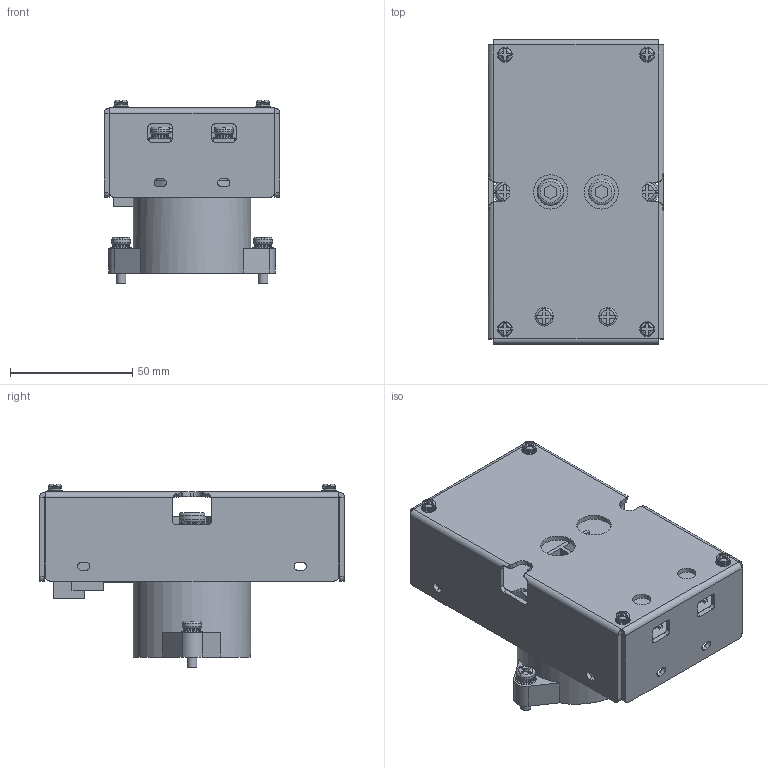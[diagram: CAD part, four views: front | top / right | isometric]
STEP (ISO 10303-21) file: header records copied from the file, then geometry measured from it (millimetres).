
FILE_DESCRIPTION(/* description */ (''),/* implementation_level */ '2;1');
FILE_NAME(/* name */ 'G:\019_LVD ICL\[ 신버전_2024_03 ]\[ 3D 파일 (STEP,IGES) ]\BLVD.stp',/* time_stamp */ '2025-02-20T11:57:06+09:00',/* author */ ('jjang'),/* organization */ (''),/* preprocessor_version */ 'ST-DEVELOPER v18.1',/* originating_system */ 'Autodesk Inventor 2021',/* authorisation */ '');
FILE_SCHEMA (('CONFIG_CONTROL_DESIGN'));
Length unit declared in the file: inch
Products named in the file (1): ICL RELAY ASS'Y_Shrinkwrap_2
Bounding box: 71.7 x 124.4 x 75.01 mm (x, y, z)
Volume: 171646.1 mm3; surface area: 86921.7 mm2
Topology: 7 solids, 7 shells, 933 faces, 2498 edges, 1683 vertices
Faces by surface type: plane 544, cylinder 265, cone 56, torus 52, bspline 8, sphere 8
Full cylindrical faces by diameter (mm): 2.8 x4, 2.957 x8, 3 x4, 3.3 x4, 3.848 x1, 3.86 x1, 4 x12, 4.2 x2, 4.3 x2, 4.5 x2, 5.429 x4, 5.5 x2, 5.636 x4, 5.744 x2, 6.2 x2, 6.3 x3, 7 x1, 7.084 x4, 7.5 x2, 7.8 x4, 8 x1, 8.5 x1, 10.286 x1, 10.5 x2, 12 x3, 14 x2, 48 x1, 50.6 x1
Entity records: 31629 total; most frequent: CARTESIAN_POINT 7131, DIRECTION 5109, ORIENTED_EDGE 4996, EDGE_CURVE 2498, AXIS2_PLACEMENT_3D 1861, VERTEX_POINT 1683, LINE 1387, VECTOR 1387
